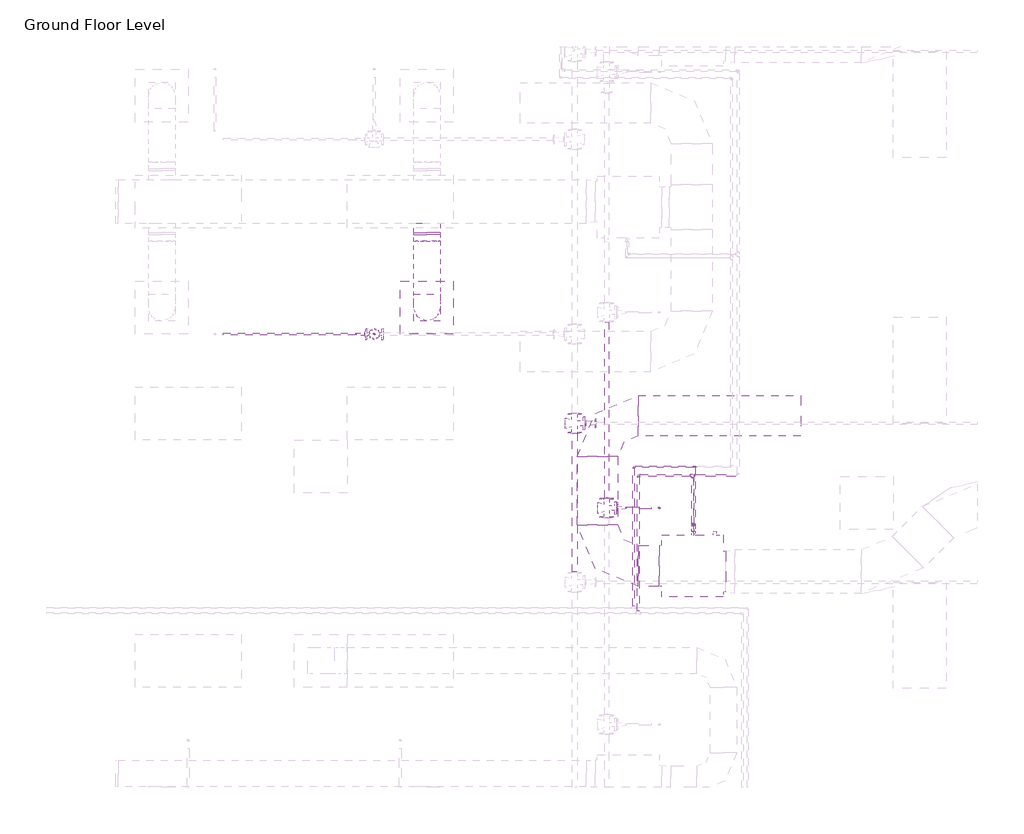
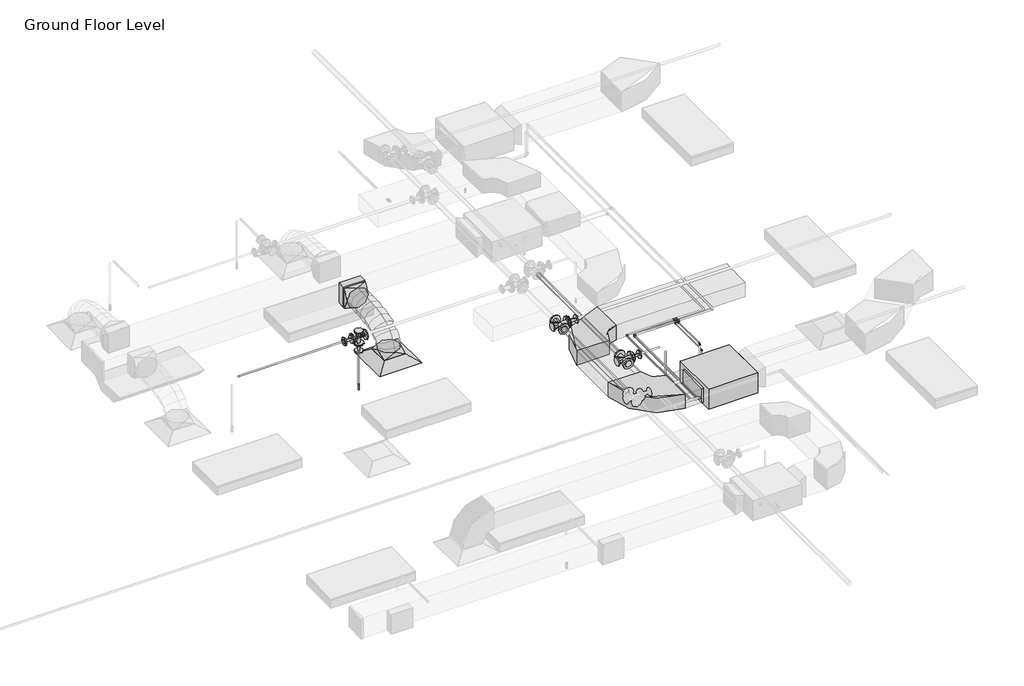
# One storey, part 59 of 72: 18 pipe fittings, 18 pipe segments, 5 duct fittings, 5 duct segments, 2 fire suppression terminals, 1 air terminal, 1 proxy.
"""IFC4 building model written with IfcOpenShell, lengths in millimetres."""

from ifc_helpers import new_model, si_unit, point, frame, frame_2d, origin, place, context, project, spatial, polyline, circle_curve, ellipse_curve, trimmed, segment, composite_curve, outline, extrude, transform, mapped, element, save
from ifc_brep_helpers import plane_surface, cylinder_surface, advanced_brep
from components import m_return_diffuser_600_x_600_face_300_x_300_connection_ff221211, fcu_daikin_iu_bad131e0, m_rectangular_elbow_radius_1_w_54c96895, m_rectangular_takeoff_standard_cb0ccb98, m_rectangular_to_round_transition_angle_45_degree_641efff0, m_sprinkler_dry_pendent_hosted_15_mm_dry_pendent_9bda8e11, m_sprinkler_pendent_15_mm_pendent_06fcbd8e, m_elbow_generic_standard_a088f956, m_elbow_generic_standard_2a704253, m_elbow_generic_standard_73005802, m_elbow_generic_standard_bb5ffebe, m_reducer_flanged_cs_class_150_standard_ccf252ad, m_reducer_flanged_cs_class_150_standard_83138b42, m_reducer_flanged_cs_class_150_standard_a7631c35, m_tee_generic_standard_cdc1cff5, m_tee_generic_standard_bbfc025c, m_tee_round_base_flanged_cs_class_150_standard_dd767e04, m_tee_round_base_flanged_cs_class_150_standard_7e5987a1, m_tee_round_base_flanged_cs_class_150_standard_ab36f383, m_transition_generic_standard_e9aec4dd, m_transition_generic_standard_c2658a33

model = new_model("IFC4")

# Units and contexts
model_context = context("Model", 3, world=origin())
ifc_project = project(units=[si_unit("LENGTHUNIT", "METRE", prefix="MILLI")], contexts=[model_context])

# Site, building, storey
site = spatial("IfcSite", under=ifc_project)
building = spatial("IfcBuilding", under=site)
storey = spatial("IfcBuildingStorey", under=building, Name="Ground Floor Level", Elevation=900.0)

# Air terminal
placement = place(None, origin())
m_return_diffuser_600_x_600_face_300_x_300_connection_shape = m_return_diffuser_600_x_600_face_300_x_300_connection_ff221211(model_context)
element("IfcAirTerminal", 1, ObjectType="M_Supply Diffuser : 600 x 600 Face 300 x 300 Connection", at=placement, inside=storey, context=model_context, shape_type="MappedRepresentation", body=[
    mapped(m_return_diffuser_600_x_600_face_300_x_300_connection_shape, transform((3962.7672395, 2935.2153534, 3650.0), x_axis=(1.0, 0.0, 0.0), y_axis=(0.0, 1.0, 0.0), z_axis=(0.0, 0.0, 1.0))),
])

# Proxy
fcu_daikin_iu_shape = fcu_daikin_iu_bad131e0(model_context)
element("IfcBuildingElementProxy", 2, Name="FCU-DAIKIN IU : 4.5kW, 230V/50Hz/1Ph", ObjectType="FCU-DAIKIN IU : 4.5kW, 230V/50Hz/1Ph", at=placement, inside=storey, context=model_context, shape_type="MappedRepresentation", body=[
    mapped(fcu_daikin_iu_shape, transform((6968.8139492, 9.6779527, 3934.0932729), x_axis=(0.0, 1.0, 0.0), y_axis=(-1.0, 0.0, 0.0), z_axis=(0.0, 0.0, 1.0))),
])

# Duct fittings
m_rectangular_elbow_radius_1_w_shape = m_rectangular_elbow_radius_1_w_54c96895(model_context)
element("IfcDuctFitting", 3, ObjectType="M_Rectangular Elbow - Radius : 1 W", at=placement, inside=storey, context=model_context, shape_type="MappedRepresentation", body=[
    mapped(m_rectangular_elbow_radius_1_w_shape, transform((5893.4139492, 9.6779527, 4075.2932729), x_axis=(0.0, -1.0, 0.0), y_axis=(1.0, 0.0, 0.0), z_axis=(0.0, 0.0, 1.0))),
])
element("IfcDuctFitting", 4, ObjectType="M_Rectangular Elbow - Radius : 1 W", at=placement, inside=storey, context=model_context, shape_type="MappedRepresentation", body=[
    mapped(m_rectangular_elbow_radius_1_w_shape, transform((5893.4139492, 1709.6783949, 4075.2932729), x_axis=(-1.0, 0.0, 0.0), y_axis=(0.0, -1.0, 0.0), z_axis=(0.0, 0.0, 1.0))),
])
m_rectangular_takeoff_standard_shape = m_rectangular_takeoff_standard_cb0ccb98(model_context)
element("IfcDuctFitting", 5, ObjectType="M_Rectangular Takeoff : Standard", at=placement, inside=storey, context=model_context, shape_type="MappedRepresentation", body=[
    mapped(m_rectangular_takeoff_standard_shape, transform((3962.7672395, 3885.0199167, 4099.9957478), x_axis=(0.0, -1.0, 0.0), y_axis=(-1.0, 0.0, 0.0), z_axis=(0.0, 0.0, -1.0))),
])
m_rectangular_to_round_transition_angle_45_degree_shape = m_rectangular_to_round_transition_angle_45_degree_641efff0(model_context)
element("IfcDuctFitting", 6, ObjectType="M_Rectangular to Round Transition - Angle : 45 Degree", at=placement, inside=storey, context=model_context, shape_type="MappedRepresentation", body=[
    mapped(m_rectangular_to_round_transition_angle_45_degree_shape, transform((3962.7672395, 2935.2153534, 3751.6), x_axis=(0.0, 0.0, 1.0), y_axis=(-1.0, 0.0, 0.0), z_axis=(0.0, -1.0, 0.0))),
])
element("IfcDuctFitting", 7, ObjectType="M_Rectangular to Round Transition - Angle : 45 Degree", at=placement, inside=storey, context=model_context, shape_type="MappedRepresentation", body=[
    mapped(m_rectangular_to_round_transition_angle_45_degree_shape, transform((3962.7672395, 3762.5555369, 4099.9957478), x_axis=(0.0, -1.0, 0.0), y_axis=(1.0, 0.0, 0.0), z_axis=(0.0, 0.0, 1.0))),
])

# Duct segments
element("IfcDuctSegment", 8, ObjectType="Flex - Round", at=placement, inside=storey, context=model_context, shape_type="AdvancedBrep", body=[
    advanced_brep(
    [(4112.7672395, 2935.2153534, 3826.6), (3962.7672395, 2785.2153534, 3826.6), (3812.7672395, 2935.2153534, 3826.6), (3962.7672395, 3085.2153534, 3826.6), (4112.7672395, 2935.2153534, 3857.9378899), (3962.7672395, 2785.2153534, 3883.5813304), (3812.7672395, 2935.2153534, 3857.9378899), (3962.7672395, 3085.2153534, 3832.2944495), (4112.7672395, 2952.2314038, 3906.2506504), (3962.7672395, 2818.4936927, 3978.0667363), (3812.7672395, 2952.2314038, 3906.2506504), (3962.7672395, 3085.969115, 3834.4345644), (4112.7672395, 2999.4156052, 3968.7111185), (3962.7672395, 2895.2104338, 4079.6211427), (3812.7672395, 2999.4156052, 3968.7111185), (3962.7672395, 3103.6207766, 3857.8010943), (4112.7672395, 3070.9720324, 4016.0693384), (3962.7672395, 3002.0391237, 4150.3236188), (3812.7672395, 3070.9720324, 4016.0693384), (3962.7672395, 3139.9049411, 3881.8150579), (4112.7672395, 3161.1047605, 4050.413244), (3962.7672395, 3117.545251, 4194.3357287), (3812.7672395, 3161.1047605, 4050.413244), (3962.7672395, 3204.66427, 3906.4907592), (4112.7672395, 3264.0178643, 4073.8307693), (3962.7672395, 3237.4581287, 4221.6214946), (3812.7672395, 3264.0178643, 4073.8307693), (3962.7672395, 3290.5775999, 3926.0400441), (4112.7672395, 3373.9154189, 4088.4098484), (3962.7672395, 3358.7655495, 4237.7142137), (3812.7672395, 3373.9154189, 4088.4098484), (3962.7672395, 3389.0652883, 3939.1054831), (4112.7672395, 3485.0014992, 4096.2384151), (3962.7672395, 3477.4969747, 4246.0815706), (3812.7672395, 3485.0014992, 4096.2384151), (3962.7672395, 3492.5060238, 3946.3952596), (4112.7672395, 3591.4801802, 4099.4044036), (3962.7672395, 3588.7891594, 4249.3906816), (3812.7672395, 3591.4801802, 4099.4044036), (3962.7672395, 3594.1712011, 3949.4181256), (4112.7672395, 3687.5555369, 4099.9957478), (3962.7672395, 3688.47877, 3949.998589), (3812.7672395, 3687.5555369, 4099.9957478), (3962.7672395, 3686.6323039, 4249.9929065)],
    [
        (0, 1, circle_curve(frame((3962.7672395, 2935.2153534, 3826.6), z_axis=(0.0, 0.0, -1.0), x_axis=(1.0, 0.0, 0.0)), 150.0)),
        (1, 2, circle_curve(frame((3962.7672395, 2935.2153534, 3826.6), z_axis=(0.0, 0.0, -1.0), x_axis=(1.0, 0.0, 0.0)), 150.0)),
        (2, 3, circle_curve(frame((3962.7672395, 2935.2153534, 3826.6), z_axis=(0.0, 0.0, -1.0), x_axis=(1.0, 0.0, 0.0)), 150.0)),
        (3, 0, circle_curve(frame((3962.7672395, 2935.2153534, 3826.6), z_axis=(0.0, 0.0, -1.0), x_axis=(1.0, 0.0, 0.0)), 150.0)),
        (0, 4),
        (4, 5, ellipse_curve(frame((3962.7672395, 2935.2153534, 3857.9378899), z_axis=(0.0, -0.1685115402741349, -0.9856996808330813), x_axis=(0.0, 0.9856996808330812, -0.1685115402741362)), 152.1761678, 150.0)),
        (5, 1),
        (5, 6, ellipse_curve(frame((3962.7672395, 2935.2153534, 3857.9378899), z_axis=(0.0, -0.1685115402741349, -0.9856996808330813), x_axis=(0.0, 0.9856996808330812, -0.1685115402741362)), 152.1761678, 150.0)),
        (6, 2),
        (6, 7, ellipse_curve(frame((3962.7672395, 2935.2153534, 3857.9378899), z_axis=(0.0, -0.1685115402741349, -0.9856996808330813), x_axis=(0.0, 0.9856996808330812, -0.1685115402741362)), 152.1761678, 150.0)),
        (7, 3),
        (7, 4, ellipse_curve(frame((3962.7672395, 2935.2153534, 3857.9378899), z_axis=(0.0, -0.1685115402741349, -0.9856996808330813), x_axis=(0.0, 0.9856996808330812, -0.1685115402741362)), 152.1761678, 150.0)),
        (4, 8),
        (8, 9, ellipse_curve(frame((3962.7672395, 2952.2314038, 3906.2506504), z_axis=(0.0, -0.47309586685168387, -0.8810109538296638), x_axis=(0.0, 0.8810109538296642, -0.4730958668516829)), 151.8002819, 150.0)),
        (9, 5),
        (9, 10, ellipse_curve(frame((3962.7672395, 2952.2314038, 3906.2506504), z_axis=(0.0, -0.47309586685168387, -0.8810109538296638), x_axis=(0.0, 0.8810109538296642, -0.4730958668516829)), 151.8002819, 150.0)),
        (10, 6),
        (10, 11, ellipse_curve(frame((3962.7672395, 2952.2314038, 3906.2506504), z_axis=(0.0, -0.47309586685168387, -0.8810109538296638), x_axis=(0.0, 0.8810109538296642, -0.4730958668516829)), 151.8002819, 150.0)),
        (11, 7),
        (11, 8, ellipse_curve(frame((3962.7672395, 2952.2314038, 3906.2506504), z_axis=(0.0, -0.47309586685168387, -0.8810109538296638), x_axis=(0.0, 0.8810109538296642, -0.4730958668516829)), 151.8002819, 150.0)),
        (8, 12),
        (12, 13, ellipse_curve(frame((3962.7672395, 2999.4156052, 3968.7111185), z_axis=(0.0, -0.7287924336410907, -0.68473468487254), x_axis=(0.0, 0.6847346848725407, -0.7287924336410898)), 152.1832817, 150.0)),
        (13, 9),
        (13, 14, ellipse_curve(frame((3962.7672395, 2999.4156052, 3968.7111185), z_axis=(0.0, -0.7287924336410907, -0.68473468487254), x_axis=(0.0, 0.6847346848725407, -0.7287924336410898)), 152.1832817, 150.0)),
        (14, 10),
        (14, 15, ellipse_curve(frame((3962.7672395, 2999.4156052, 3968.7111185), z_axis=(0.0, -0.7287924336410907, -0.68473468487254), x_axis=(0.0, 0.6847346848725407, -0.7287924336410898)), 152.1832817, 150.0)),
        (15, 11),
        (15, 12, ellipse_curve(frame((3962.7672395, 2999.4156052, 3968.7111185), z_axis=(0.0, -0.7287924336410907, -0.68473468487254), x_axis=(0.0, 0.6847346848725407, -0.7287924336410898)), 152.1832817, 150.0)),
        (12, 16),
        (16, 17, ellipse_curve(frame((3962.7672395, 3070.9720324, 4016.0693384), z_axis=(0.0, -0.8895898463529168, -0.4567602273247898), x_axis=(0.0, 0.45676022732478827, -0.8895898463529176)), 150.9170558, 150.0)),
        (17, 13),
        (17, 18, ellipse_curve(frame((3962.7672395, 3070.9720324, 4016.0693384), z_axis=(0.0, -0.8895898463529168, -0.4567602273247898), x_axis=(0.0, 0.45676022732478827, -0.8895898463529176)), 150.9170558, 150.0)),
        (18, 14),
        (18, 19, ellipse_curve(frame((3962.7672395, 3070.9720324, 4016.0693384), z_axis=(0.0, -0.8895898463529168, -0.4567602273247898), x_axis=(0.0, 0.45676022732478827, -0.8895898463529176)), 150.9170558, 150.0)),
        (19, 15),
        (19, 16, ellipse_curve(frame((3962.7672395, 3070.9720324, 4016.0693384), z_axis=(0.0, -0.8895898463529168, -0.4567602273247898), x_axis=(0.0, 0.45676022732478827, -0.8895898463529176)), 150.9170558, 150.0)),
        (16, 20),
        (20, 21, ellipse_curve(frame((3962.7672395, 3161.1047605, 4050.413244), z_axis=(0.0, -0.9571228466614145, -0.28968233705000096), x_axis=(0.0, 0.2896823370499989, -0.9571228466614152)), 150.3699188, 150.0)),
        (21, 17),
        (21, 22, ellipse_curve(frame((3962.7672395, 3161.1047605, 4050.413244), z_axis=(0.0, -0.9571228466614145, -0.28968233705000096), x_axis=(0.0, 0.2896823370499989, -0.9571228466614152)), 150.3699188, 150.0)),
        (22, 18),
        (22, 23, ellipse_curve(frame((3962.7672395, 3161.1047605, 4050.413244), z_axis=(0.0, -0.9571228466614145, -0.28968233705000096), x_axis=(0.0, 0.2896823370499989, -0.9571228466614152)), 150.3699188, 150.0)),
        (23, 19),
        (23, 20, ellipse_curve(frame((3962.7672395, 3161.1047605, 4050.413244), z_axis=(0.0, -0.9571228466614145, -0.28968233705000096), x_axis=(0.0, 0.2896823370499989, -0.9571228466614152)), 150.3699188, 150.0)),
        (20, 24),
        (24, 25, ellipse_curve(frame((3962.7672395, 3264.0178643, 4073.8307693), z_axis=(0.0, -0.9842327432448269, -0.17687822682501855), x_axis=(0.0, 0.17687822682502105, -0.9842327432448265)), 150.1583099, 150.0)),
        (25, 21),
        (25, 26, ellipse_curve(frame((3962.7672395, 3264.0178643, 4073.8307693), z_axis=(0.0, -0.9842327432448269, -0.17687822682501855), x_axis=(0.0, 0.17687822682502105, -0.9842327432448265)), 150.1583099, 150.0)),
        (26, 22),
        (26, 27, ellipse_curve(frame((3962.7672395, 3264.0178643, 4073.8307693), z_axis=(0.0, -0.9842327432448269, -0.17687822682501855), x_axis=(0.0, 0.17687822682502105, -0.9842327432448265)), 150.1583099, 150.0)),
        (27, 23),
        (27, 24, ellipse_curve(frame((3962.7672395, 3264.0178643, 4073.8307693), z_axis=(0.0, -0.9842327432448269, -0.17687822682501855), x_axis=(0.0, 0.17687822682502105, -0.9842327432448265)), 150.1583099, 150.0)),
        (24, 28),
        (28, 29, ellipse_curve(frame((3962.7672395, 3373.9154189, 4088.4098484), z_axis=(0.0, -0.9948913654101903, -0.10095133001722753), x_axis=(0.0, 0.10095133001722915, -0.9948913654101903)), 150.0710233, 150.0)),
        (29, 25),
        (29, 30, ellipse_curve(frame((3962.7672395, 3373.9154189, 4088.4098484), z_axis=(0.0, -0.9948913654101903, -0.10095133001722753), x_axis=(0.0, 0.10095133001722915, -0.9948913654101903)), 150.0710233, 150.0)),
        (30, 26),
        (30, 31, ellipse_curve(frame((3962.7672395, 3373.9154189, 4088.4098484), z_axis=(0.0, -0.9948913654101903, -0.10095133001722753), x_axis=(0.0, 0.10095133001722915, -0.9948913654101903)), 150.0710233, 150.0)),
        (31, 27),
        (31, 28, ellipse_curve(frame((3962.7672395, 3373.9154189, 4088.4098484), z_axis=(0.0, -0.9948913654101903, -0.10095133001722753), x_axis=(0.0, 0.10095133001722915, -0.9948913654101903)), 150.0710233, 150.0)),
        (28, 32),
        (32, 33, ellipse_curve(frame((3962.7672395, 3485.0014992, 4096.2384151), z_axis=(0.0, -0.9987482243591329, -0.05001983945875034), x_axis=(0.0, 0.05001983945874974, -0.9987482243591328)), 150.0309606, 150.0)),
        (33, 29),
        (33, 34, ellipse_curve(frame((3962.7672395, 3485.0014992, 4096.2384151), z_axis=(0.0, -0.9987482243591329, -0.05001983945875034), x_axis=(0.0, 0.05001983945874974, -0.9987482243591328)), 150.0309606, 150.0)),
        (34, 30),
        (34, 35, ellipse_curve(frame((3962.7672395, 3485.0014992, 4096.2384151), z_axis=(0.0, -0.9987482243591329, -0.05001983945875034), x_axis=(0.0, 0.05001983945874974, -0.9987482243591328)), 150.0309606, 150.0)),
        (35, 31),
        (35, 32, ellipse_curve(frame((3962.7672395, 3485.0014992, 4096.2384151), z_axis=(0.0, -0.9987482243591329, -0.05001983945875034), x_axis=(0.0, 0.05001983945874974, -0.9987482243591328)), 150.0309606, 150.0)),
        (32, 36),
        (36, 37, ellipse_curve(frame((3962.7672395, 3591.4801802, 4099.4044036), z_axis=(0.0, -0.9998390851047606, -0.017938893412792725), x_axis=(0.0, 0.017938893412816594, -0.99983908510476)), 150.0104169, 150.0)),
        (37, 33),
        (37, 38, ellipse_curve(frame((3962.7672395, 3591.4801802, 4099.4044036), z_axis=(0.0, -0.9998390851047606, -0.017938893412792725), x_axis=(0.0, 0.017938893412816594, -0.99983908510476)), 150.0104169, 150.0)),
        (38, 34),
        (38, 39, ellipse_curve(frame((3962.7672395, 3591.4801802, 4099.4044036), z_axis=(0.0, -0.9998390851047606, -0.017938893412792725), x_axis=(0.0, 0.017938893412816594, -0.99983908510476)), 150.0104169, 150.0)),
        (39, 35),
        (39, 36, ellipse_curve(frame((3962.7672395, 3591.4801802, 4099.4044036), z_axis=(0.0, -0.9998390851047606, -0.017938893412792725), x_axis=(0.0, 0.017938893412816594, -0.99983908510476)), 150.0104169, 150.0)),
        (40, 41, circle_curve(frame((3962.7672395, 3687.5555369, 4099.9957478), z_axis=(0.0, 0.9999810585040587, 0.006154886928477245), x_axis=(1.0, 0.0, 0.0)), 150.0)),
        (41, 42, circle_curve(frame((3962.7672395, 3687.5555369, 4099.9957478), z_axis=(0.0, 0.9999810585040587, 0.006154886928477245), x_axis=(1.0, 0.0, 0.0)), 150.0)),
        (42, 43, circle_curve(frame((3962.7672395, 3687.5555369, 4099.9957478), z_axis=(0.0, 0.9999810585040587, 0.006154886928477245), x_axis=(1.0, 0.0, 0.0)), 150.0)),
        (43, 40, circle_curve(frame((3962.7672395, 3687.5555369, 4099.9957478), z_axis=(0.0, 0.9999810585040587, 0.006154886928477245), x_axis=(1.0, 0.0, 0.0)), 150.0)),
        (36, 40),
        (43, 37),
        (42, 38),
        (41, 39),
    ],
    [
        plane_surface(frame((3962.7672395, 2785.2153534, 3826.6), z_axis=(0.0, 0.0, -1.0), x_axis=(1.0, 0.0, 0.0))),
        cylinder_surface(frame((3962.7672395, 2935.2153534, 3826.6), z_axis=(0.0, 0.0, -1.0), x_axis=(1.0, 0.0, 0.0)), 150.0),
        cylinder_surface(frame((3962.7672395, 2935.2153534, 3857.9378899), z_axis=(0.0, -0.33220354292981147, -0.9432077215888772), x_axis=(1.0, 0.0, 0.0)), 150.0),
        cylinder_surface(frame((3962.7672395, 2952.2314038, 3906.2506504), z_axis=(0.0, -0.6027667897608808, -0.7979174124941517), x_axis=(1.0, 0.0, 0.0)), 150.0),
        cylinder_surface(frame((3962.7672395, 2999.4156052, 3968.7111185), z_axis=(0.0, -0.833906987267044, -0.5519050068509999), x_axis=(1.0, 0.0, 0.0)), 150.0),
        cylinder_surface(frame((3962.7672395, 3070.9720324, 4016.0693384), z_axis=(0.0, -0.9344614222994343, -0.35606439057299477), x_axis=(1.0, 0.0, 0.0)), 150.0),
        cylinder_surface(frame((3962.7672395, 3161.1047605, 4050.413244), z_axis=(0.0, -0.9750751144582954, -0.22187501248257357), x_axis=(1.0, 0.0, 0.0)), 150.0),
        cylinder_surface(frame((3962.7672395, 3264.0178643, 4073.8307693), z_axis=(0.0, -0.9913150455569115, -0.1315084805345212), x_axis=(1.0, 0.0, 0.0)), 150.0),
        cylinder_surface(frame((3962.7672395, 3373.9154189, 4088.4098484), z_axis=(0.0, -0.997525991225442, -0.07029862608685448), x_axis=(1.0, 0.0, 0.0)), 150.0),
        cylinder_surface(frame((3962.7672395, 3485.0014992, 4096.2384151), z_axis=(0.0, -0.9995582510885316, -0.029720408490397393), x_axis=(1.0, 0.0, 0.0)), 150.0),
        plane_surface(frame((3962.7672395, 3686.6323039, 4249.9929065), z_axis=(0.0, 0.9999810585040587, 0.006154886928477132), x_axis=(1.0, 0.0, 0.0))),
        cylinder_surface(frame((3962.7672395, 3591.4801802, 4099.4044036), z_axis=(0.0, -0.9999810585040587, -0.006154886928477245), x_axis=(1.0, 0.0, 0.0)), 150.0),
    ],
    [
        (0, [[1, 2, 3, 4]]),
        (1, [[-1, 5, 6, 7]]),
        (1, [[-2, -7, 8, 9]]),
        (1, [[-3, -9, 10, 11]]),
        (1, [[-4, -11, 12, -5]]),
        (2, [[-6, 13, 14, 15]]),
        (2, [[-8, -15, 16, 17]]),
        (2, [[-10, -17, 18, 19]]),
        (2, [[-12, -19, 20, -13]]),
        (3, [[-14, 21, 22, 23]]),
        (3, [[-16, -23, 24, 25]]),
        (3, [[-18, -25, 26, 27]]),
        (3, [[-20, -27, 28, -21]]),
        (4, [[-22, 29, 30, 31]]),
        (4, [[-24, -31, 32, 33]]),
        (4, [[-26, -33, 34, 35]]),
        (4, [[-28, -35, 36, -29]]),
        (5, [[-30, 37, 38, 39]]),
        (5, [[-32, -39, 40, 41]]),
        (5, [[-34, -41, 42, 43]]),
        (5, [[-36, -43, 44, -37]]),
        (6, [[-38, 45, 46, 47]]),
        (6, [[-40, -47, 48, 49]]),
        (6, [[-42, -49, 50, 51]]),
        (6, [[-44, -51, 52, -45]]),
        (7, [[-46, 53, 54, 55]]),
        (7, [[-48, -55, 56, 57]]),
        (7, [[-50, -57, 58, 59]]),
        (7, [[-52, -59, 60, -53]]),
        (8, [[-54, 61, 62, 63]]),
        (8, [[-56, -63, 64, 65]]),
        (8, [[-58, -65, 66, 67]]),
        (8, [[-60, -67, 68, -61]]),
        (9, [[-62, 69, 70, 71]]),
        (9, [[-64, -71, 72, 73]]),
        (9, [[-66, -73, 74, 75]]),
        (9, [[-68, -75, 76, -69]]),
        (10, [[77, 78, 79, 80]]),
        (11, [[-70, 81, -80, 82]]),
        (11, [[-72, -82, -79, 83]]),
        (11, [[-74, -83, -78, 84]]),
        (11, [[-76, -84, -77, -81]]),
    ],
),
])
element("IfcDuctSegment", 9, ObjectType="Radius Elbows / Taps", at=placement, inside=storey, context=model_context, shape_type="SweptSolid", body=[
    extrude(outline(polyline([(6593.4139492, 240.6154527), (6593.4139492, -221.2595473), (6355.2889492, -221.2595473), (6355.2889492, 240.6154527), (6593.4139492, 240.6154527)])), frame((0.0, 0.0, 3968.1432729), z_axis=(0.0, 0.0, 1.0), x_axis=(1.0, 0.0, 0.0)), (0.0, 0.0, 1.0), 214.3),
])
element("IfcDuctSegment", 10, ObjectType="Radius Elbows / Taps", at=placement, inside=storey, context=model_context, shape_type="SweptSolid", body=[
    extrude(outline(polyline([(6124.3514492, 471.5529527), (5662.4764492, 471.5529527), (5662.4764492, 1247.8033949), (6124.3514492, 1247.8033949), (6124.3514492, 471.5529527)])), frame((0.0, 0.0, 3968.1432729), z_axis=(0.0, 0.0, 1.0), x_axis=(1.0, 0.0, 0.0)), (0.0, 0.0, 1.0), 214.3),
])
element("IfcDuctSegment", 11, ObjectType="Radius Elbows / Taps", at=placement, inside=storey, context=model_context, shape_type="SweptSolid", body=[
    extrude(outline(polyline([(6355.2889492, 1478.7408949), (6355.2889492, 1940.6158949), (8193.4139492, 1940.6158949), (8193.4139492, 1478.7408949), (6355.2889492, 1478.7408949)])), frame((0.0, 0.0, 3968.1432729), z_axis=(0.0, 0.0, 1.0), x_axis=(1.0, 0.0, 0.0)), (0.0, 0.0, 1.0), 214.3),
])
element("IfcDuctSegment", 12, ObjectType="Radius Elbows / Taps", at=placement, inside=storey, context=model_context, shape_type="SweptSolid", body=[
    extrude(outline(polyline([(3812.7672395, 3783.4199167), (4112.7672395, 3783.4199167), (4112.7672395, 3762.5555369), (3812.7672395, 3762.5555369), (3812.7672395, 3783.4199167)])), frame((0.0, 0.0, 3949.9957478), z_axis=(0.0, 0.0, 1.0), x_axis=(1.0, 0.0, 0.0)), (0.0, 0.0, 1.0), 300.0),
])

# Fire suppression terminals
m_sprinkler_dry_pendent_hosted_15_mm_dry_pendent_shape = m_sprinkler_dry_pendent_hosted_15_mm_dry_pendent_9bda8e11(model_context)
element("IfcFireSuppressionTerminal", 13, ObjectType="M_Sprinkler - Dry - Pendent - Hosted : 15 mm Dry Pendent", at=placement, inside=storey, context=model_context, shape_type="MappedRepresentation", body=[
    mapped(m_sprinkler_dry_pendent_hosted_15_mm_dry_pendent_shape, transform((3367.3772563, 2635.2153534, 3650.0), x_axis=(1.0, 0.0, 0.0), y_axis=(0.0, -1.0, 0.0), z_axis=(0.0, 0.0, -1.0))),
])
m_sprinkler_pendent_15_mm_pendent_shape = m_sprinkler_pendent_15_mm_pendent_06fcbd8e(model_context)
element("IfcFireSuppressionTerminal", 14, ObjectType="M_Sprinkler - Pendent : 15 mm Pendent", at=placement, inside=storey, context=model_context, shape_type="MappedRepresentation", body=[
    mapped(m_sprinkler_pendent_15_mm_pendent_shape, transform((6592.5481019, 666.6492065, 3650.0), x_axis=(1.0, 0.0, 0.0), y_axis=(0.0, 1.0, 0.0), z_axis=(0.0, 0.0, 1.0))),
])

# Pipe fittings
m_elbow_generic_standard_shape = m_elbow_generic_standard_a088f956(model_context)
element("IfcPipeFitting", 15, ObjectType="M_Elbow - Generic : Standard", at=placement, inside=storey, context=model_context, shape_type="MappedRepresentation", body=[
    mapped(m_elbow_generic_standard_shape, transform((6968.8139492, 477.4658847, 4034.0932729), x_axis=(0.0, 1.0, 0.0), y_axis=(0.0, 0.0, 1.0), z_axis=(1.0, 0.0, 0.0))),
])
element("IfcPipeFitting", 16, ObjectType="M_Elbow - Generic : Standard", at=placement, inside=storey, context=model_context, shape_type="MappedRepresentation", body=[
    mapped(m_elbow_generic_standard_shape, transform((6968.8139492, 477.4658847, 4300.0), x_axis=(0.0, 0.0, 1.0), y_axis=(0.0, 1.0, 0.0), z_axis=(-1.0, 0.0, 0.0))),
])
m_elbow_generic_standard_2_shape = m_elbow_generic_standard_2a704253(model_context)
element("IfcPipeFitting", 17, ObjectType="M_Elbow - Generic : Standard", at=placement, inside=storey, context=model_context, shape_type="MappedRepresentation", body=[
    mapped(m_elbow_generic_standard_2_shape, transform((6993.8139492, 474.3157767, 4084.8932729), x_axis=(0.0, 1.0, 0.0), y_axis=(0.0, 0.0, 1.0), z_axis=(1.0, 0.0, 0.0))),
])
element("IfcPipeFitting", 18, ObjectType="M_Elbow - Generic : Standard", at=placement, inside=storey, context=model_context, shape_type="MappedRepresentation", body=[
    mapped(m_elbow_generic_standard_2_shape, transform((6993.8139492, 474.3157767, 4200.0), x_axis=(0.0, 0.0, 1.0), y_axis=(0.0, 1.0, 0.0), z_axis=(-1.0, 0.0, 0.0))),
])
element("IfcPipeFitting", 19, ObjectType="M_Elbow - Generic : Standard", at=placement, inside=storey, context=model_context, shape_type="MappedRepresentation", body=[
    mapped(m_elbow_generic_standard_2_shape, transform((6993.8139492, 1134.0185138, 4200.0), x_axis=(0.0, 0.0, -1.0), y_axis=(0.0, -1.0, 0.0), z_axis=(-1.0, 0.0, 0.0))),
])
m_elbow_generic_standard_3_shape = m_elbow_generic_standard_73005802(model_context)
element("IfcPipeFitting", 20, ObjectType="M_Elbow - Generic : Standard", at=placement, inside=storey, context=model_context, shape_type="MappedRepresentation", body=[
    mapped(m_elbow_generic_standard_3_shape, transform((6355.3210494, 1036.0098545, 4300.0), x_axis=(-1.0, 0.0, 0.0), y_axis=(0.0, -1.0, 0.0), z_axis=(0.0, 0.0, 1.0))),
])
m_elbow_generic_standard_4_shape = m_elbow_generic_standard_bb5ffebe(model_context)
element("IfcPipeFitting", 21, ObjectType="M_Elbow - Generic : Standard", at=placement, inside=storey, context=model_context, shape_type="MappedRepresentation", body=[
    mapped(m_elbow_generic_standard_4_shape, transform((6302.4595152, 1134.0185138, 4265.0), x_axis=(-1.0, 0.0, 0.0), y_axis=(0.0, -1.0, 0.0), z_axis=(0.0, 0.0, 1.0))),
])
m_reducer_flanged_cs_class_150_standard_shape = m_reducer_flanged_cs_class_150_standard_ccf252ad(model_context)
element("IfcPipeFitting", 22, ObjectType="M_Reducer - Flanged - CS - Class 150 : Standard", at=placement, inside=storey, context=model_context, shape_type="MappedRepresentation", body=[
    mapped(m_reducer_flanged_cs_class_150_standard_shape, transform((3266.6686625, 2635.2153534, 4360.0), x_axis=(-1.0, 0.0, 0.0), y_axis=(0.0, 0.0, 1.0), z_axis=(0.0, 1.0, 0.0))),
])
element("IfcPipeFitting", 23, ObjectType="M_Reducer - Flanged - CS - Class 150 : Standard", at=placement, inside=storey, context=model_context, shape_type="MappedRepresentation", body=[
    mapped(m_reducer_flanged_cs_class_150_standard_shape, transform((3367.3772563, 2635.2153534, 4259.2914062), x_axis=(0.0, 0.0, -1.0), y_axis=(-1.0, 0.0, 0.0), z_axis=(0.0, 1.0, 0.0))),
])
m_reducer_flanged_cs_class_150_standard_2_shape = m_reducer_flanged_cs_class_150_standard_83138b42(model_context)
element("IfcPipeFitting", 24, ObjectType="M_Reducer - Flanged - CS - Class 150 : Standard", at=placement, inside=storey, context=model_context, shape_type="MappedRepresentation", body=[
    mapped(m_reducer_flanged_cs_class_150_standard_2_shape, transform((6109.3164057, 666.6492065, 4291.2754753), x_axis=(1.0, 0.0, 0.0), y_axis=(0.0, 0.0, -1.0), z_axis=(0.0, 1.0, 0.0))),
])
m_reducer_flanged_cs_class_150_standard_3_shape = m_reducer_flanged_cs_class_150_standard_a7631c35(model_context)
element("IfcPipeFitting", 25, ObjectType="M_Reducer - Flanged - CS - Class 150 : Standard", at=placement, inside=storey, context=model_context, shape_type="MappedRepresentation", body=[
    mapped(m_reducer_flanged_cs_class_150_standard_3_shape, transform((5749.869498, 1625.2153534, 4360.0), x_axis=(1.0, 0.0, 0.0), y_axis=(0.0, 0.0, 1.0), z_axis=(0.0, -1.0, 0.0))),
])
m_tee_generic_standard_shape = m_tee_generic_standard_cdc1cff5(model_context)
element("IfcPipeFitting", 26, ObjectType="M_Tee - Generic : Standard", at=placement, inside=storey, context=model_context, shape_type="MappedRepresentation", body=[
    mapped(m_tee_generic_standard_shape, transform((6993.8139492, 1134.0185138, 4265.0), x_axis=(1.0, 0.0, 0.0), y_axis=(0.0, 0.0, 1.0), z_axis=(0.0, -1.0, 0.0))),
])
m_tee_generic_standard_2_shape = m_tee_generic_standard_bbfc025c(model_context)
element("IfcPipeFitting", 27, ObjectType="M_Tee - Generic : Standard", at=placement, inside=storey, context=model_context, shape_type="MappedRepresentation", body=[
    mapped(m_tee_generic_standard_2_shape, transform((6968.8139492, 1036.0098545, 4300.0), x_axis=(1.0, 0.0, 0.0), y_axis=(0.0, 1.0, 0.0), z_axis=(0.0, 0.0, 1.0))),
])
m_tee_round_base_flanged_cs_class_150_standard_shape = m_tee_round_base_flanged_cs_class_150_standard_dd767e04(model_context)
element("IfcPipeFitting", 28, ObjectType="M_Tee Round Base - Flanged - CS - Class 150 : Standard", at=placement, inside=storey, context=model_context, shape_type="MappedRepresentation", body=[
    mapped(m_tee_round_base_flanged_cs_class_150_standard_shape, transform((5635.869498, 1625.2153534, 4360.0), x_axis=(0.0, 1.0, 0.0), y_axis=(-1.0, 0.0, 0.0), z_axis=(0.0, 0.0, 1.0))),
])
m_tee_round_base_flanged_cs_class_150_standard_2_shape = m_tee_round_base_flanged_cs_class_150_standard_7e5987a1(model_context)
element("IfcPipeFitting", 29, ObjectType="M_Tee Round Base - Flanged - CS - Class 150 : Standard", at=placement, inside=storey, context=model_context, shape_type="MappedRepresentation", body=[
    mapped(m_tee_round_base_flanged_cs_class_150_standard_2_shape, transform((3367.3772563, 2635.2153534, 4360.0), x_axis=(-1.0, 0.0, 0.0), y_axis=(0.0, 0.0, 1.0), z_axis=(0.0, 1.0, 0.0))),
])
m_tee_round_base_flanged_cs_class_150_standard_3_shape = m_tee_round_base_flanged_cs_class_150_standard_ab36f383(model_context)
element("IfcPipeFitting", 30, ObjectType="M_Tee Round Base - Flanged - CS - Class 150 : Standard", at=placement, inside=storey, context=model_context, shape_type="MappedRepresentation", body=[
    mapped(m_tee_round_base_flanged_cs_class_150_standard_3_shape, transform((5997.057812, 666.6492065, 4291.0943441), x_axis=(0.0, 1.0, 0.0), y_axis=(-1.0, 0.0, 0.0), z_axis=(0.0, 0.0, 1.0))),
])
m_transition_generic_standard_shape = m_transition_generic_standard_e9aec4dd(model_context)
element("IfcPipeFitting", 31, ObjectType="M_Transition - Generic : Standard", at=placement, inside=storey, context=model_context, shape_type="MappedRepresentation", body=[
    mapped(m_transition_generic_standard_shape, transform((6968.8139492, 1010.6098545, 4300.0), x_axis=(0.0, -1.0, 0.0), y_axis=(1.0, 0.0, 0.0), z_axis=(0.0, 0.0, 1.0))),
])
m_transition_generic_standard_2_shape = m_transition_generic_standard_c2658a33(model_context)
element("IfcPipeFitting", 32, ObjectType="M_Transition - Generic : Standard", at=placement, inside=storey, context=model_context, shape_type="MappedRepresentation", body=[
    mapped(m_transition_generic_standard_2_shape, transform((6993.8139492, 1134.0185138, 4242.775), x_axis=(0.0, 0.0, -1.0), y_axis=(1.0, 0.0, 0.0), z_axis=(0.0, -1.0, 0.0))),
])

# Pipe segments
element("IfcPipeSegment", 33, ObjectType="Copper", at=placement, inside=storey, context=model_context, shape_type="SweptSolid", body=[
    extrude(outline(composite_curve([segment(trimmed(circle_curve(frame_2d((4265.0, 6302.4595152)), 8.1), [point((4265.0, 6294.3595152))], [point((4256.9, 6302.4595152))], False, "CARTESIAN"), True, "CONTINUOUS"), segment(trimmed(circle_curve(frame_2d((4265.0, 6302.4595152)), 8.1), [point((4256.9, 6302.4595152))], [point((4265.0, 6310.5595152))], False, "CARTESIAN"), True, "CONTINUOUS"), segment(trimmed(circle_curve(frame_2d((4265.0, 6302.4595152)), 8.1), [point((4265.0, 6310.5595152))], [point((4273.1, 6302.4595152))], False, "CARTESIAN"), True, "CONTINUOUS"), segment(trimmed(circle_curve(frame_2d((4265.0, 6302.4595152)), 8.1), [point((4273.1, 6302.4595152))], [point((4265.0, 6294.3595152))], False, "CARTESIAN"), True, "CONTINUOUS")], self_intersect=False)), frame((0.0, -443.7564862, 0.0), z_axis=(0.0, 1.0, 0.0), x_axis=(0.0, 0.0, 1.0)), (0.0, 0.0, 1.0), 1561.9),
])
element("IfcPipeSegment", 34, ObjectType="Copper", at=placement, inside=storey, context=model_context, shape_type="SweptSolid", body=[
    extrude(outline(composite_curve([segment(trimmed(circle_curve(frame_2d((4300.0, 6355.3210494)), 11.5), [point((4300.0, 6343.8210494))], [point((4288.5, 6355.3210494))], False, "CARTESIAN"), True, "CONTINUOUS"), segment(trimmed(circle_curve(frame_2d((4300.0, 6355.3210494)), 11.5), [point((4288.5, 6355.3210494))], [point((4300.0, 6366.8210494))], False, "CARTESIAN"), True, "CONTINUOUS"), segment(trimmed(circle_curve(frame_2d((4300.0, 6355.3210494)), 11.5), [point((4300.0, 6366.8210494))], [point((4311.5, 6355.3210494))], False, "CARTESIAN"), True, "CONTINUOUS"), segment(trimmed(circle_curve(frame_2d((4300.0, 6355.3210494)), 11.5), [point((4311.5, 6355.3210494))], [point((4300.0, 6343.8210494))], False, "CARTESIAN"), True, "CONTINUOUS")], self_intersect=False)), frame((0.0, -498.5901455, 0.0), z_axis=(0.0, 1.0, 0.0), x_axis=(0.0, 0.0, 1.0)), (0.0, 0.0, 1.0), 1515.55),
])
element("IfcPipeSegment", 35, ObjectType="Copper", at=placement, inside=storey, context=model_context, shape_type="SweptSolid", body=[
    extrude(outline(composite_curve([segment(trimmed(circle_curve(frame_2d((4200.0, 6993.8139492)), 3.35), [point((4200.0, 6997.1639492))], [point((4203.35, 6993.8139492))], False, "CARTESIAN"), True, "CONTINUOUS"), segment(trimmed(circle_curve(frame_2d((4200.0, 6993.8139492)), 3.35), [point((4203.35, 6993.8139492))], [point((4200.0, 6990.4639492))], False, "CARTESIAN"), True, "CONTINUOUS"), segment(trimmed(circle_curve(frame_2d((4200.0, 6993.8139492)), 3.35), [point((4200.0, 6990.4639492))], [point((4196.65, 6993.8139492))], False, "CARTESIAN"), True, "CONTINUOUS"), segment(trimmed(circle_curve(frame_2d((4200.0, 6993.8139492)), 3.35), [point((4196.65, 6993.8139492))], [point((4200.0, 6997.1639492))], False, "CARTESIAN"), True, "CONTINUOUS")], self_intersect=False)), frame((0.0, 485.4532767, 0.0), z_axis=(0.0, 1.0, 0.0), x_axis=(0.0, 0.0, 1.0)), (0.0, 0.0, 1.0), 637.4277371),
])
element("IfcPipeSegment", 36, ObjectType="Copper", at=placement, inside=storey, context=model_context, shape_type="SweptSolid", body=[
    extrude(outline(composite_curve([segment(trimmed(circle_curve(frame_2d((4300.0, 6968.8139492)), 6.5), [point((4300.0, 6962.3139492))], [point((4293.5, 6968.8139492))], False, "CARTESIAN"), True, "CONTINUOUS"), segment(trimmed(circle_curve(frame_2d((4300.0, 6968.8139492)), 6.5), [point((4293.5, 6968.8139492))], [point((4300.0, 6975.3139492))], False, "CARTESIAN"), True, "CONTINUOUS"), segment(trimmed(circle_curve(frame_2d((4300.0, 6968.8139492)), 6.5), [point((4300.0, 6975.3139492))], [point((4306.5, 6968.8139492))], False, "CARTESIAN"), True, "CONTINUOUS"), segment(trimmed(circle_curve(frame_2d((4300.0, 6968.8139492)), 6.5), [point((4306.5, 6968.8139492))], [point((4300.0, 6962.3139492))], False, "CARTESIAN"), True, "CONTINUOUS")], self_intersect=False)), frame((0.0, 491.7533847, 0.0), z_axis=(0.0, 1.0, 0.0), x_axis=(0.0, 0.0, 1.0)), (0.0, 0.0, 1.0), 512.5064698),
])
element("IfcPipeSegment", 37, ObjectType="Copper", at=placement, inside=storey, context=model_context, shape_type="SweptSolid", body=[
    extrude(outline(composite_curve([segment(trimmed(circle_curve(frame_2d((1134.0185138, 4265.0)), 8.1), [point((1142.1185138, 4265.0))], [point((1134.0185138, 4256.9))], False, "CARTESIAN"), True, "CONTINUOUS"), segment(trimmed(circle_curve(frame_2d((1134.0185138, 4265.0)), 8.1), [point((1134.0185138, 4256.9))], [point((1125.9185138, 4265.0))], False, "CARTESIAN"), True, "CONTINUOUS"), segment(trimmed(circle_curve(frame_2d((1134.0185138, 4265.0)), 8.1), [point((1125.9185138, 4265.0))], [point((1134.0185138, 4273.1))], False, "CARTESIAN"), True, "CONTINUOUS"), segment(trimmed(circle_curve(frame_2d((1134.0185138, 4265.0)), 8.1), [point((1134.0185138, 4273.1))], [point((1142.1185138, 4265.0))], False, "CARTESIAN"), True, "CONTINUOUS")], self_intersect=False)), frame((6318.3345152, 0.0, 0.0), z_axis=(1.0, 0.0, 0.0), x_axis=(0.0, 1.0, 0.0)), (0.0, 0.0, 1.0), 653.254434),
])
element("IfcPipeSegment", 38, ObjectType="Copper", at=placement, inside=storey, context=model_context, shape_type="SweptSolid", body=[
    extrude(outline(composite_curve([segment(trimmed(circle_curve(frame_2d((1036.0098545, 4300.0)), 11.5), [point((1047.5098545, 4300.0))], [point((1036.0098545, 4288.5))], False, "CARTESIAN"), True, "CONTINUOUS"), segment(trimmed(circle_curve(frame_2d((1036.0098545, 4300.0)), 11.5), [point((1036.0098545, 4288.5))], [point((1024.5098545, 4300.0))], False, "CARTESIAN"), True, "CONTINUOUS"), segment(trimmed(circle_curve(frame_2d((1036.0098545, 4300.0)), 11.5), [point((1024.5098545, 4300.0))], [point((1036.0098545, 4311.5))], False, "CARTESIAN"), True, "CONTINUOUS"), segment(trimmed(circle_curve(frame_2d((1036.0098545, 4300.0)), 11.5), [point((1036.0098545, 4311.5))], [point((1047.5098545, 4300.0))], False, "CARTESIAN"), True, "CONTINUOUS")], self_intersect=False)), frame((6374.3710494, 0.0, 0.0), z_axis=(1.0, 0.0, 0.0), x_axis=(0.0, 1.0, 0.0)), (0.0, 0.0, 1.0), 569.0428998),
])
element("IfcPipeSegment", 39, ObjectType="Copper", at=placement, inside=storey, context=model_context, shape_type="SweptSolid", body=[
    extrude(outline(composite_curve([segment(trimmed(circle_curve(frame_2d((4084.8932729, 6993.8139492)), 3.35), [point((4084.8932729, 6997.1639492))], [point((4088.2432729, 6993.8139492))], False, "CARTESIAN"), True, "CONTINUOUS"), segment(trimmed(circle_curve(frame_2d((4084.8932729, 6993.8139492)), 3.35), [point((4088.2432729, 6993.8139492))], [point((4084.8932729, 6990.4639492))], False, "CARTESIAN"), True, "CONTINUOUS"), segment(trimmed(circle_curve(frame_2d((4084.8932729, 6993.8139492)), 3.35), [point((4084.8932729, 6990.4639492))], [point((4081.5432729, 6993.8139492))], False, "CARTESIAN"), True, "CONTINUOUS"), segment(trimmed(circle_curve(frame_2d((4084.8932729, 6993.8139492)), 3.35), [point((4081.5432729, 6993.8139492))], [point((4084.8932729, 6997.1639492))], False, "CARTESIAN"), True, "CONTINUOUS")], self_intersect=False)), frame((0.0, 397.7779527, 0.0), z_axis=(0.0, 1.0, 0.0), x_axis=(0.0, 0.0, 1.0)), (0.0, 0.0, 1.0), 65.4003241),
])
element("IfcPipeSegment", 40, ObjectType="Copper", at=placement, inside=storey, context=model_context, shape_type="SweptSolid", body=[
    extrude(outline(composite_curve([segment(trimmed(circle_curve(frame_2d((6993.8139492, 474.3157767)), 3.35), [point((6990.4639492, 474.3157767))], [point((6993.8139492, 477.6657767))], False, "CARTESIAN"), True, "CONTINUOUS"), segment(trimmed(circle_curve(frame_2d((6993.8139492, 474.3157767)), 3.35), [point((6993.8139492, 477.6657767))], [point((6997.1639492, 474.3157767))], False, "CARTESIAN"), True, "CONTINUOUS"), segment(trimmed(circle_curve(frame_2d((6993.8139492, 474.3157767)), 3.35), [point((6997.1639492, 474.3157767))], [point((6993.8139492, 470.9657767))], False, "CARTESIAN"), True, "CONTINUOUS"), segment(trimmed(circle_curve(frame_2d((6993.8139492, 474.3157767)), 3.35), [point((6993.8139492, 470.9657767))], [point((6990.4639492, 474.3157767))], False, "CARTESIAN"), True, "CONTINUOUS")], self_intersect=False)), frame((0.0, 0.0, 4096.0307729), z_axis=(0.0, 0.0, 1.0), x_axis=(1.0, 0.0, 0.0)), (0.0, 0.0, 1.0), 92.8317271),
])
element("IfcPipeSegment", 41, ObjectType="Copper", at=placement, inside=storey, context=model_context, shape_type="SweptSolid", body=[
    extrude(outline(composite_curve([segment(trimmed(circle_curve(frame_2d((4034.0932729, 6968.8139492)), 6.5), [point((4034.0932729, 6975.3139492))], [point((4040.5932729, 6968.8139492))], False, "CARTESIAN"), True, "CONTINUOUS"), segment(trimmed(circle_curve(frame_2d((4034.0932729, 6968.8139492)), 6.5), [point((4040.5932729, 6968.8139492))], [point((4034.0932729, 6962.3139492))], False, "CARTESIAN"), True, "CONTINUOUS"), segment(trimmed(circle_curve(frame_2d((4034.0932729, 6968.8139492)), 6.5), [point((4034.0932729, 6962.3139492))], [point((4027.5932729, 6968.8139492))], False, "CARTESIAN"), True, "CONTINUOUS"), segment(trimmed(circle_curve(frame_2d((4034.0932729, 6968.8139492)), 6.5), [point((4027.5932729, 6968.8139492))], [point((4034.0932729, 6975.3139492))], False, "CARTESIAN"), True, "CONTINUOUS")], self_intersect=False)), frame((0.0, 397.7779527, 0.0), z_axis=(0.0, 1.0, 0.0), x_axis=(0.0, 0.0, 1.0)), (0.0, 0.0, 1.0), 65.4004321),
])
element("IfcPipeSegment", 42, ObjectType="Copper", at=placement, inside=storey, context=model_context, shape_type="SweptSolid", body=[
    extrude(outline(composite_curve([segment(trimmed(circle_curve(frame_2d((6968.8139492, 477.4658847)), 6.5), [point((6962.3139492, 477.4658847))], [point((6968.8139492, 483.9658847))], False, "CARTESIAN"), True, "CONTINUOUS"), segment(trimmed(circle_curve(frame_2d((6968.8139492, 477.4658847)), 6.5), [point((6968.8139492, 483.9658847))], [point((6975.3139492, 477.4658847))], False, "CARTESIAN"), True, "CONTINUOUS"), segment(trimmed(circle_curve(frame_2d((6968.8139492, 477.4658847)), 6.5), [point((6975.3139492, 477.4658847))], [point((6968.8139492, 470.9658847))], False, "CARTESIAN"), True, "CONTINUOUS"), segment(trimmed(circle_curve(frame_2d((6968.8139492, 477.4658847)), 6.5), [point((6968.8139492, 470.9658847))], [point((6962.3139492, 477.4658847))], False, "CARTESIAN"), True, "CONTINUOUS")], self_intersect=False)), frame((0.0, 0.0, 4048.3807729), z_axis=(0.0, 0.0, 1.0), x_axis=(1.0, 0.0, 0.0)), (0.0, 0.0, 1.0), 237.3317271),
])
element("IfcPipeSegment", 43, ObjectType="Copper", at=placement, inside=storey, context=model_context, shape_type="SweptSolid", body=[
    extrude(outline(composite_curve([segment(trimmed(circle_curve(frame_2d((1036.0098545, 4300.0)), 11.5), [point((1047.5098545, 4300.0))], [point((1036.0098545, 4288.5))], False, "CARTESIAN"), True, "CONTINUOUS"), segment(trimmed(circle_curve(frame_2d((1036.0098545, 4300.0)), 11.5), [point((1036.0098545, 4288.5))], [point((1024.5098545, 4300.0))], False, "CARTESIAN"), True, "CONTINUOUS"), segment(trimmed(circle_curve(frame_2d((1036.0098545, 4300.0)), 11.5), [point((1024.5098545, 4300.0))], [point((1036.0098545, 4311.5))], False, "CARTESIAN"), True, "CONTINUOUS"), segment(trimmed(circle_curve(frame_2d((1036.0098545, 4300.0)), 11.5), [point((1036.0098545, 4311.5))], [point((1047.5098545, 4300.0))], False, "CARTESIAN"), True, "CONTINUOUS")], self_intersect=False)), frame((6994.2139492, 0.0, 0.0), z_axis=(1.0, 0.0, 0.0), x_axis=(0.0, 1.0, 0.0)), (0.0, 0.0, 1.0), 471.8032902),
])
element("IfcPipeSegment", 44, ObjectType="Copper", at=placement, inside=storey, context=model_context, shape_type="SweptSolid", body=[
    extrude(outline(composite_curve([segment(trimmed(circle_curve(frame_2d((6993.8139492, 1134.0185138)), 3.35), [point((6997.1639492, 1134.0185138))], [point((6993.8139492, 1130.6685138))], False, "CARTESIAN"), True, "CONTINUOUS"), segment(trimmed(circle_curve(frame_2d((6993.8139492, 1134.0185138)), 3.35), [point((6993.8139492, 1130.6685138))], [point((6990.4639492, 1134.0185138))], False, "CARTESIAN"), True, "CONTINUOUS"), segment(trimmed(circle_curve(frame_2d((6993.8139492, 1134.0185138)), 3.35), [point((6990.4639492, 1134.0185138))], [point((6993.8139492, 1137.3685138))], False, "CARTESIAN"), True, "CONTINUOUS"), segment(trimmed(circle_curve(frame_2d((6993.8139492, 1134.0185138)), 3.35), [point((6993.8139492, 1137.3685138))], [point((6997.1639492, 1134.0185138))], False, "CARTESIAN"), True, "CONTINUOUS")], self_intersect=False)), frame((0.0, 0.0, 4211.1375), z_axis=(0.0, 0.0, 1.0), x_axis=(1.0, 0.0, 0.0)), (0.0, 0.0, 1.0), 26.875),
])
element("IfcPipeSegment", 45, ObjectType="Steel flanged", at=placement, inside=storey, context=model_context, shape_type="SweptSolid", body=[
    extrude(outline(composite_curve([segment(trimmed(circle_curve(frame_2d((6592.5481019, 666.6492065)), 10.668), [point((6581.8801019, 666.6492065))], [point((6592.5481019, 677.3172065))], False, "CARTESIAN"), True, "CONTINUOUS"), segment(trimmed(circle_curve(frame_2d((6592.5481019, 666.6492065)), 10.668), [point((6592.5481019, 677.3172065))], [point((6603.2161019, 666.6492065))], False, "CARTESIAN"), True, "CONTINUOUS"), segment(trimmed(circle_curve(frame_2d((6592.5481019, 666.6492065)), 10.668), [point((6603.2161019, 666.6492065))], [point((6592.5481019, 655.9812065))], False, "CARTESIAN"), True, "CONTINUOUS"), segment(trimmed(circle_curve(frame_2d((6592.5481019, 666.6492065)), 10.668), [point((6592.5481019, 655.9812065))], [point((6581.8801019, 666.6492065))], False, "CARTESIAN"), True, "CONTINUOUS")], self_intersect=False)), frame((0.0, 0.0, 3650.0), z_axis=(0.0, 0.0, 1.0), x_axis=(1.0, 0.0, 0.0)), (0.0, 0.0, 1.0), 548.2668816),
])
element("IfcPipeSegment", 46, ObjectType="Steel flanged", at=placement, inside=storey, context=model_context, shape_type="SweptSolid", body=[
    extrude(outline(composite_curve([segment(trimmed(circle_curve(frame_2d((666.6492065, 4291.2754753)), 10.668), [point((677.3172065, 4291.2754753))], [point((666.6492065, 4280.6074753))], False, "CARTESIAN"), True, "CONTINUOUS"), segment(trimmed(circle_curve(frame_2d((666.6492065, 4291.2754753)), 10.668), [point((666.6492065, 4280.6074753))], [point((655.9812065, 4291.2754753))], False, "CARTESIAN"), True, "CONTINUOUS"), segment(trimmed(circle_curve(frame_2d((666.6492065, 4291.2754753)), 10.668), [point((655.9812065, 4291.2754753))], [point((666.6492065, 4301.9434753))], False, "CARTESIAN"), True, "CONTINUOUS"), segment(trimmed(circle_curve(frame_2d((666.6492065, 4291.2754753)), 10.668), [point((666.6492065, 4301.9434753))], [point((677.3172065, 4291.2754753))], False, "CARTESIAN"), True, "CONTINUOUS")], self_intersect=False)), frame((6223.3164057, 0.0, 0.0), z_axis=(1.0, 0.0, 0.0), x_axis=(0.0, 1.0, 0.0)), (0.0, 0.0, 1.0), 276.2231025),
])
element("IfcPipeSegment", 47, ObjectType="Steel flanged", at=placement, inside=storey, context=model_context, shape_type="SweptSolid", body=[
    extrude(outline(composite_curve([segment(trimmed(circle_curve(frame_2d((4291.0943441, 5997.057812)), 24.13), [point((4291.0943441, 5972.927812))], [point((4266.9643441, 5997.057812))], False, "CARTESIAN"), True, "CONTINUOUS"), segment(trimmed(circle_curve(frame_2d((4291.0943441, 5997.057812)), 24.13), [point((4266.9643441, 5997.057812))], [point((4291.0943441, 6021.187812))], False, "CARTESIAN"), True, "CONTINUOUS"), segment(trimmed(circle_curve(frame_2d((4291.0943441, 5997.057812)), 24.13), [point((4291.0943441, 6021.187812))], [point((4315.2243441, 5997.057812))], False, "CARTESIAN"), True, "CONTINUOUS"), segment(trimmed(circle_curve(frame_2d((4291.0943441, 5997.057812)), 24.13), [point((4315.2243441, 5997.057812))], [point((4291.0943441, 5972.927812))], False, "CARTESIAN"), True, "CONTINUOUS")], self_intersect=False)), frame((0.0, 778.9078002, 0.0), z_axis=(0.0, 1.0, 0.0), x_axis=(0.0, 0.0, 1.0)), (0.0, 0.0, 1.0), 1990.3470625),
])
element("IfcPipeSegment", 48, ObjectType="Steel flanged", at=placement, inside=storey, context=model_context, shape_type="SweptSolid", body=[
    extrude(outline(composite_curve([segment(trimmed(circle_curve(frame_2d((4360.0, 5635.869498)), 30.1625), [point((4360.0, 5605.706998))], [point((4329.8375, 5635.869498))], False, "CARTESIAN"), True, "CONTINUOUS"), segment(trimmed(circle_curve(frame_2d((4360.0, 5635.869498)), 30.1625), [point((4329.8375, 5635.869498))], [point((4360.0, 5666.031998))], False, "CARTESIAN"), True, "CONTINUOUS"), segment(trimmed(circle_curve(frame_2d((4360.0, 5635.869498)), 30.1625), [point((4360.0, 5666.031998))], [point((4390.1625, 5635.869498))], False, "CARTESIAN"), True, "CONTINUOUS"), segment(trimmed(circle_curve(frame_2d((4360.0, 5635.869498)), 30.1625), [point((4390.1625, 5635.869498))], [point((4360.0, 5605.706998))], False, "CARTESIAN"), True, "CONTINUOUS")], self_intersect=False)), frame((0.0, -60.7846466, 0.0), z_axis=(0.0, 1.0, 0.0), x_axis=(0.0, 0.0, 1.0)), (0.0, 0.0, 1.0), 1572.0),
])
element("IfcPipeSegment", 49, ObjectType="Steel flanged", at=placement, inside=storey, context=model_context, shape_type="SweptSolid", body=[
    extrude(outline(composite_curve([segment(trimmed(circle_curve(frame_2d((3367.3772563, 2635.2153534)), 10.668), [point((3356.7092563, 2635.2153534))], [point((3367.3772563, 2645.8833534))], False, "CARTESIAN"), True, "CONTINUOUS"), segment(trimmed(circle_curve(frame_2d((3367.3772563, 2635.2153534)), 10.668), [point((3367.3772563, 2645.8833534))], [point((3378.0452563, 2635.2153534))], False, "CARTESIAN"), True, "CONTINUOUS"), segment(trimmed(circle_curve(frame_2d((3367.3772563, 2635.2153534)), 10.668), [point((3378.0452563, 2635.2153534))], [point((3367.3772563, 2624.5473534))], False, "CARTESIAN"), True, "CONTINUOUS"), segment(trimmed(circle_curve(frame_2d((3367.3772563, 2635.2153534)), 10.668), [point((3367.3772563, 2624.5473534))], [point((3356.7092563, 2635.2153534))], False, "CARTESIAN"), True, "CONTINUOUS")], self_intersect=False)), frame((0.0, 0.0, 3650.0), z_axis=(0.0, 0.0, 1.0), x_axis=(1.0, 0.0, 0.0)), (0.0, 0.0, 1.0), 495.2914062),
])
element("IfcPipeSegment", 50, ObjectType="Steel flanged", at=placement, inside=storey, context=model_context, shape_type="SweptSolid", body=[
    extrude(outline(composite_curve([segment(trimmed(circle_curve(frame_2d((2635.2153534, 4360.0)), 10.668), [point((2624.5473534, 4360.0))], [point((2635.2153534, 4370.668))], False, "CARTESIAN"), True, "CONTINUOUS"), segment(trimmed(circle_curve(frame_2d((2635.2153534, 4360.0)), 10.668), [point((2635.2153534, 4370.668))], [point((2645.8833534, 4360.0))], False, "CARTESIAN"), True, "CONTINUOUS"), segment(trimmed(circle_curve(frame_2d((2635.2153534, 4360.0)), 10.668), [point((2645.8833534, 4360.0))], [point((2635.2153534, 4349.332))], False, "CARTESIAN"), True, "CONTINUOUS"), segment(trimmed(circle_curve(frame_2d((2635.2153534, 4360.0)), 10.668), [point((2635.2153534, 4349.332))], [point((2624.5473534, 4360.0))], False, "CARTESIAN"), True, "CONTINUOUS")], self_intersect=False)), frame((1658.584922, 0.0, 0.0), z_axis=(1.0, 0.0, 0.0), x_axis=(0.0, 1.0, 0.0)), (0.0, 0.0, 1.0), 1494.0837405),
])

save(model, "model.ifc")
